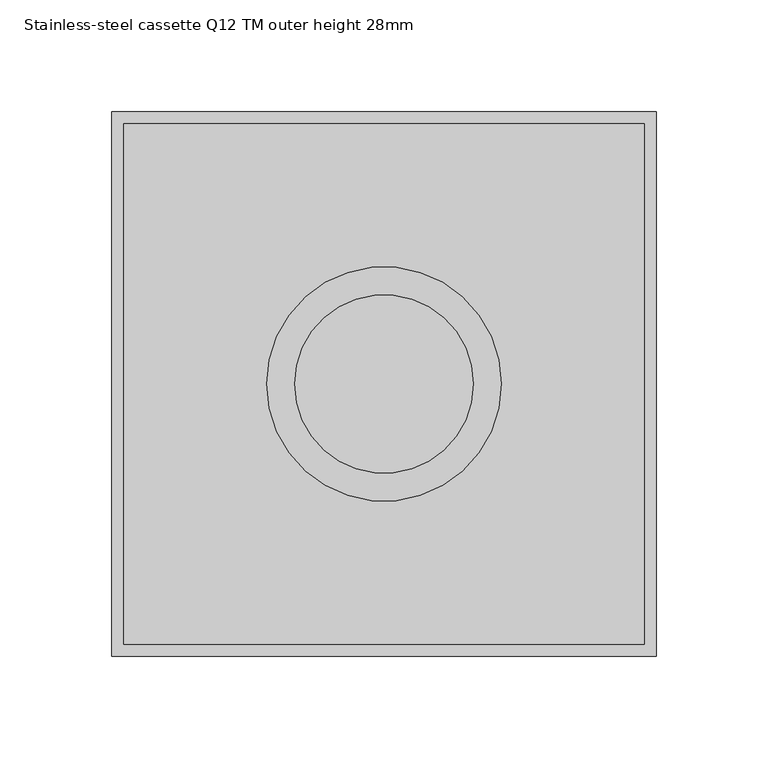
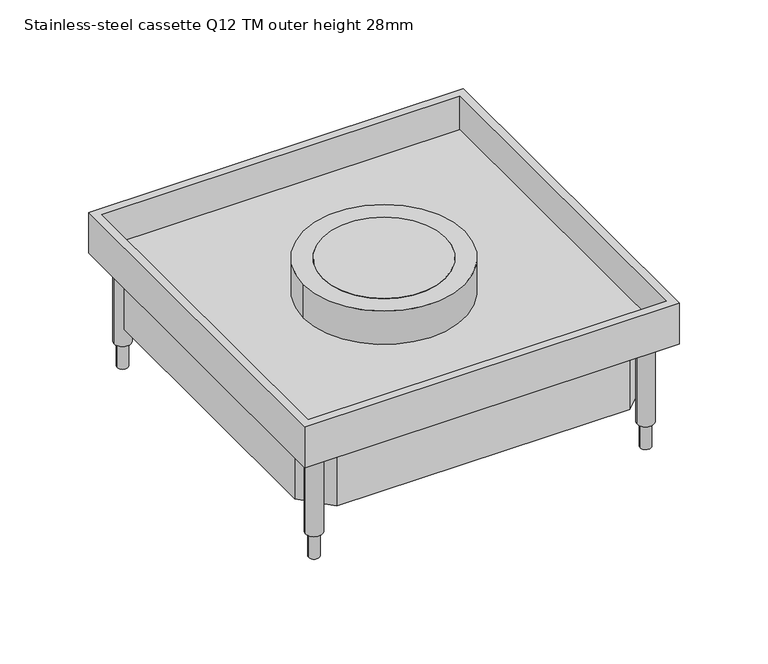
"""IFC4 building model written with IfcOpenShell, lengths in millimetres: proxy geometry, Electrical_Installation_Hager_VE-EE_EKQ-Height-adjustable-stainless-steel-cassette-with-tube-mounting-set-square-for-damp-cleaned-floors : Stainless-steel cassette Q12 TM outer height 28mm."""

from ifc_helpers import new_model, si_unit, point, frame, frame_2d, origin, origin_with_axes, origin_2d, place, context, project, spatial, polyline, circle_curve, trimmed, segment, composite_curve, outline, extrude, source, transform, mapped, element, save


def stainless_steel_cassette_q12_tm_outer_height_28mm_6e70061e(model_context):
    return source(origin(), model_context, "Body", "SweptSolid", [
        extrude(outline(composite_curve([segment(trimmed(circle_curve(origin_2d(), 40.0), [point((-40.0, 0.0))], [point((40.0, 0.0))], False, "CARTESIAN"), True, "CONTINUOUS"), segment(trimmed(circle_curve(origin_2d(), 40.0), [point((40.0, 0.0))], [point((-40.0, 0.0))], False, "CARTESIAN"), True, "CONTINUOUS")], self_intersect=False)), origin_with_axes(), (0.0, 0.0, 1.0), 2.0),
        extrude(outline(composite_curve([segment(trimmed(circle_curve(origin_2d(), 52.5), [point((-52.5, 0.0))], [point((52.5, 0.0))], False, "CARTESIAN"), True, "CONTINUOUS"), segment(trimmed(circle_curve(origin_2d(), 52.5), [point((52.5, 0.0))], [point((-52.5, 0.0))], False, "CARTESIAN"), True, "CONTINUOUS")], self_intersect=False), holes=[composite_curve([segment(trimmed(circle_curve(origin_2d(), 40.0), [point((40.0, 0.0))], [point((-40.0, 0.0))], True, "CARTESIAN"), True, "CONTINUOUS"), segment(trimmed(circle_curve(origin_2d(), 40.0), [point((-40.0, 0.0))], [point((40.0, 0.0))], True, "CARTESIAN"), True, "CONTINUOUS")], self_intersect=False)]), frame((0.0, 0.0, -21.0), z_axis=(0.0, 0.0, 1.0), x_axis=(1.0, 0.0, 0.0)), (0.0, 0.0, 1.0), 23.0),
        extrude(outline(composite_curve([segment(trimmed(circle_curve(frame_2d((-108.0, 108.0)), 3.5), [point((-111.5, 108.0))], [point((-104.5, 108.0))], False, "CARTESIAN"), True, "CONTINUOUS"), segment(trimmed(circle_curve(frame_2d((-108.0, 108.0)), 3.5), [point((-104.5, 108.0))], [point((-111.5, 108.0))], False, "CARTESIAN"), True, "CONTINUOUS")], self_intersect=False)), frame((0.0, 0.0, -100.0), z_axis=(0.0, 0.0, 1.0), x_axis=(1.0, 0.0, 0.0)), (0.0, 0.0, 1.0), 17.0011554),
        extrude(outline(composite_curve([segment(trimmed(circle_curve(frame_2d((108.0, 108.0)), 3.5), [point((104.5, 108.0))], [point((111.5, 108.0))], False, "CARTESIAN"), True, "CONTINUOUS"), segment(trimmed(circle_curve(frame_2d((108.0, 108.0)), 3.5), [point((111.5, 108.0))], [point((104.5, 108.0))], False, "CARTESIAN"), True, "CONTINUOUS")], self_intersect=False)), frame((0.0, 0.0, -100.0), z_axis=(0.0, 0.0, 1.0), x_axis=(1.0, 0.0, 0.0)), (0.0, 0.0, 1.0), 17.0011554),
        extrude(outline(composite_curve([segment(trimmed(circle_curve(frame_2d((108.0, -108.0)), 3.523354), [point((104.476646, -108.0))], [point((111.523354, -108.0))], False, "CARTESIAN"), True, "CONTINUOUS"), segment(trimmed(circle_curve(frame_2d((108.0, -108.0)), 3.523354), [point((111.523354, -108.0))], [point((104.476646, -108.0))], False, "CARTESIAN"), True, "CONTINUOUS")], self_intersect=False)), frame((0.0, 0.0, -100.0), z_axis=(0.0, 0.0, 1.0), x_axis=(1.0, 0.0, 0.0)), (0.0, 0.0, 1.0), 17.0011554),
        extrude(outline(composite_curve([segment(trimmed(circle_curve(frame_2d((-108.0, -108.0)), 3.5), [point((-111.5, -108.0))], [point((-104.5, -108.0))], False, "CARTESIAN"), True, "CONTINUOUS"), segment(trimmed(circle_curve(frame_2d((-108.0, -108.0)), 3.5), [point((-104.5, -108.0))], [point((-111.5, -108.0))], False, "CARTESIAN"), True, "CONTINUOUS")], self_intersect=False)), frame((0.0, 0.0, -100.0), z_axis=(0.0, 0.0, 1.0), x_axis=(1.0, 0.0, 0.0)), (0.0, 0.0, 1.0), 17.0011554),
        extrude(outline(polyline([(4.7, 113.0), (95.3639966, 113.0), (113.0, 96.0470649), (113.0, -95.1394213), (94.7984665, -113.0), (-95.867755, -113.0), (-113.0, -95.1801256), (-113.0, 97.543544), (-95.6272863, 113.0), (4.7, 113.0)]), holes=[polyline([(-110.0, 96.3642535), (-110.0, -94.134929), (-94.4180331, -110.0), (93.4123304, -110.0), (110.0, -94.0355815), (110.0, 94.9312235), (93.9906502, 110.0), (4.7, 110.0), (-94.3203352, 110.0), (-110.0, 96.3642535)])]), frame((0.0, 0.0, -67.0), z_axis=(0.0, 0.0, 1.0), x_axis=(1.0, 0.0, 0.0)), (0.0, 0.0, 1.0), 41.0),
        extrude(outline(polyline([(116.5, 116.5), (116.5, -116.5), (-116.5, -116.5), (-116.5, 116.5), (116.5, 116.5)]), holes=[composite_curve([segment(trimmed(circle_curve(origin_2d(), 40.0), [point((-40.0, 0.0))], [point((40.0, 0.0))], True, "CARTESIAN"), True, "CONTINUOUS"), segment(trimmed(circle_curve(origin_2d(), 40.0), [point((40.0, 0.0))], [point((-40.0, 0.0))], True, "CARTESIAN"), True, "CONTINUOUS")], self_intersect=False)]), frame((0.0, 0.0, -26.0), z_axis=(0.0, 0.0, 1.0), x_axis=(1.0, 0.0, 0.0)), (0.0, 0.0, 1.0), 5.0),
        extrude(outline(composite_curve([segment(trimmed(circle_curve(frame_2d((-108.0, 108.0)), 5.5), [point((-113.5, 108.0))], [point((-102.5, 108.0))], False, "CARTESIAN"), True, "CONTINUOUS"), segment(trimmed(circle_curve(frame_2d((-108.0, 108.0)), 5.5), [point((-102.5, 108.0))], [point((-113.5, 108.0))], False, "CARTESIAN"), True, "CONTINUOUS")], self_intersect=False)), frame((0.0, 0.0, -82.9988446), z_axis=(0.0, 0.0, 1.0), x_axis=(1.0, 0.0, 0.0)), (0.0, 0.0, 1.0), 56.9988446),
        extrude(outline(composite_curve([segment(trimmed(circle_curve(frame_2d((108.0, 108.0)), 5.5), [point((102.5, 108.0))], [point((113.5, 108.0))], False, "CARTESIAN"), True, "CONTINUOUS"), segment(trimmed(circle_curve(frame_2d((108.0, 108.0)), 5.5), [point((113.5, 108.0))], [point((102.5, 108.0))], False, "CARTESIAN"), True, "CONTINUOUS")], self_intersect=False)), frame((0.0, 0.0, -82.9988446), z_axis=(0.0, 0.0, 1.0), x_axis=(1.0, 0.0, 0.0)), (0.0, 0.0, 1.0), 56.9988446),
        extrude(outline(composite_curve([segment(trimmed(circle_curve(frame_2d((-108.0, -108.0)), 5.5), [point((-113.5, -108.0))], [point((-102.5, -108.0))], False, "CARTESIAN"), True, "CONTINUOUS"), segment(trimmed(circle_curve(frame_2d((-108.0, -108.0)), 5.5), [point((-102.5, -108.0))], [point((-113.5, -108.0))], False, "CARTESIAN"), True, "CONTINUOUS")], self_intersect=False)), frame((0.0, 0.0, -82.9988446), z_axis=(0.0, 0.0, 1.0), x_axis=(1.0, 0.0, 0.0)), (0.0, 0.0, 1.0), 56.9988446),
        extrude(outline(composite_curve([segment(trimmed(circle_curve(frame_2d((108.0, -108.0)), 5.5), [point((102.5, -108.0))], [point((113.5, -108.0))], False, "CARTESIAN"), True, "CONTINUOUS"), segment(trimmed(circle_curve(frame_2d((108.0, -108.0)), 5.5), [point((113.5, -108.0))], [point((102.5, -108.0))], False, "CARTESIAN"), True, "CONTINUOUS")], self_intersect=False)), frame((0.0, 0.0, -82.9988446), z_axis=(0.0, 0.0, 1.0), x_axis=(1.0, 0.0, 0.0)), (0.0, 0.0, 1.0), 56.9988446),
        extrude(outline(polyline([(122.0, 122.0), (122.0, -122.0), (-122.0, -122.0), (-122.0, 122.0), (122.0, 122.0)]), holes=[polyline([(116.5, 116.5), (-116.5, 116.5), (-116.5, -116.5), (116.5, -116.5), (116.5, 116.5)])]), frame((0.0, 0.0, -26.0), z_axis=(0.0, 0.0, 1.0), x_axis=(1.0, 0.0, 0.0)), (0.0, 0.0, 1.0), 28.0),
    ])


if __name__ == "__main__":
    model = new_model("IFC4")
    model_context = context("Model", 3, world=origin())
    ifc_project = project(units=[si_unit("LENGTHUNIT", "METRE", prefix="MILLI")], contexts=[model_context])
    site = spatial("IfcSite", under=ifc_project)
    building = spatial("IfcBuilding", under=site)
    placement = place(None, origin())
    stainless_steel_cassette_q12_tm_outer_height_28mm_shape = stainless_steel_cassette_q12_tm_outer_height_28mm_6e70061e(model_context)
    element("IfcBuildingElementProxy", 1, Name="Electrical_Installation_Hager_VE-EE_EKQ-Height-adjustable-stainless-steel-cassette-with-tube-mounting-set-square-for-damp-cleaned-floors : Stainless-steel cassette Q12 TM outer height 28mm", ObjectType="Electrical_Installation_Hager_VE-EE_EKQ-Height-adjustable-stainless-steel-cassette-with-tube-mounting-set-square-for-damp-cleaned-floors : Stainless-steel cassette Q12 TM outer height 28mm", at=placement, inside=building, context=model_context, shape_type="MappedRepresentation", body=[
        mapped(stainless_steel_cassette_q12_tm_outer_height_28mm_shape, transform((0.0, 0.0, 0.0), x_axis=(1.0, 0.0, 0.0), y_axis=(0.0, 1.0, 0.0), z_axis=(0.0, 0.0, 1.0))),
    ])
    save(model, "model.ifc")
